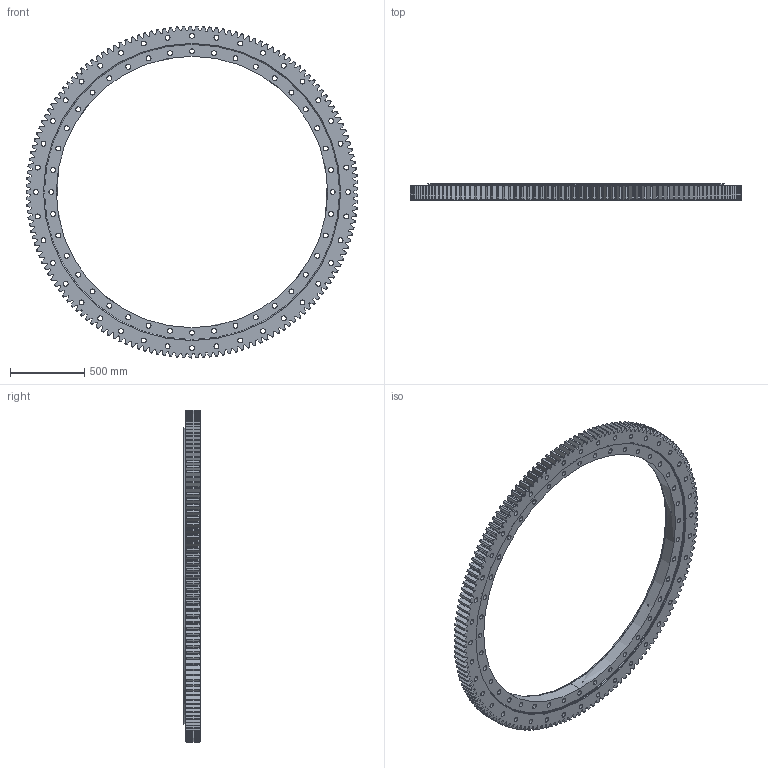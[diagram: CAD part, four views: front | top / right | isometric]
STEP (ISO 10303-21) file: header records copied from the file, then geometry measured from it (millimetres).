
FILE_DESCRIPTION (( 'STEP AP214' ), '1' );
FILE_NAME ('SM2136-2-2237AA.STEP', '2022-11-29T06:49:04', ( '' ), ( '' ), 'SwSTEP 2.0', 'SolidWorks 2020', '' );
FILE_SCHEMA (( 'AUTOMOTIVE_DESIGN' ));
Length unit declared in the file: millimetre
Products named in the file (1): SM2136-2-2237AA
Bounding box: 2237.08 x 108 x 2237.18 mm (x, y, z)
Volume: 107005021 mm3; surface area: 6630132.3 mm2
Topology: 4 solids, 4 shells, 1340 faces, 3969 edges, 2650 vertices
Faces by surface type: plane 649, cylinder 369, cone 322
Entity records: 46658 total; most frequent: CARTESIAN_POINT 11602, ORIENTED_EDGE 7938, DIRECTION 6536, EDGE_CURVE 3969, VERTEX_POINT 2650, AXIS2_PLACEMENT_3D 2373, LINE 1790, VECTOR 1790
